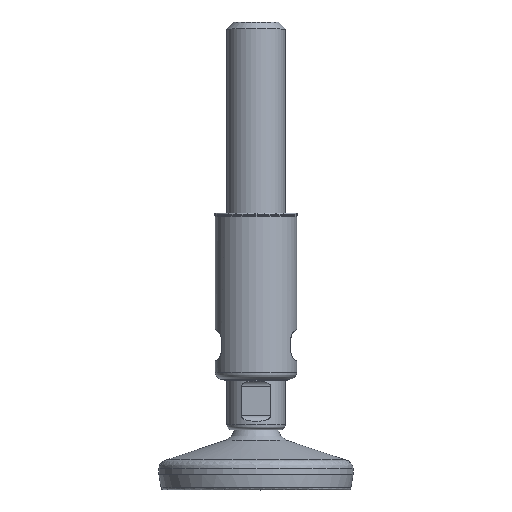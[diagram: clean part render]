
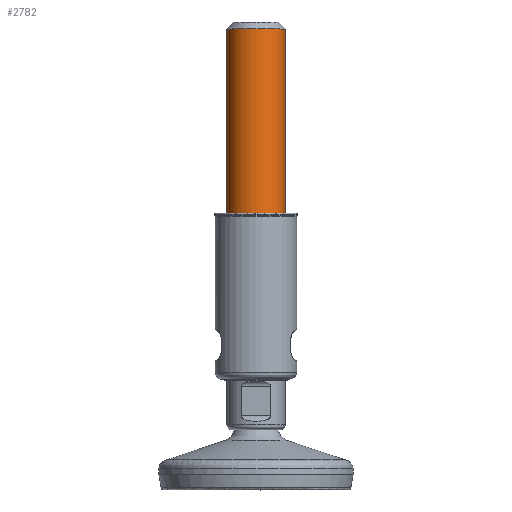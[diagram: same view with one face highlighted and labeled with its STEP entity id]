
A CAD part, top view. The second image highlights one B-rep face of the part: STEP entity #2782.
In plain terms, the highlighted cylindrical face has radius 15 mm (diameter 30 mm), a full revolution.
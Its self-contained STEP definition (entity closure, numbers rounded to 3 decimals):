
#2701=CARTESIAN_POINT('',(1338.633,1101.034,-15.0));
#2702=VERTEX_POINT('',#2701);
#2703=CARTESIAN_POINT('',(1338.633,1101.034,15.0));
#2704=VERTEX_POINT('',#2703);
#2705=CARTESIAN_POINT('',(1338.633,1101.034,0.0));
#2706=DIRECTION('',(0.,1.0,0.0));
#2707=DIRECTION('',(0.0,0.0,1.0));
#2708=AXIS2_PLACEMENT_3D('',#2705,#2706,#2707);
#2709=CIRCLE('',#2708,15.0);
#2710=EDGE_CURVE('',#2702,#2704,#2709,.T.);
#2712=CARTESIAN_POINT('',(1338.633,1101.034,0.0));
#2713=DIRECTION('',(0.,1.0,0.0));
#2714=DIRECTION('',(0.0,0.0,1.0));
#2715=AXIS2_PLACEMENT_3D('',#2712,#2713,#2714);
#2716=CIRCLE('',#2715,15.0);
#2717=EDGE_CURVE('',#2704,#2702,#2716,.T.);
#2748=CARTESIAN_POINT('',(1338.633,1101.034,0.0));
#2749=DIRECTION('',(0.,1.0,0.0));
#2750=DIRECTION('',(0.0,0.0,1.0));
#2751=AXIS2_PLACEMENT_3D('',#2748,#2749,#2750);
#2752=CYLINDRICAL_SURFACE('',#2751,15.0);
#2753=ORIENTED_EDGE('',*,*,#2717,.T.);
#2754=ORIENTED_EDGE('',*,*,#2710,.T.);
#2755=CARTESIAN_POINT('',(1338.633,1211.014,15.0));
#2756=VERTEX_POINT('',#2755);
#2757=CARTESIAN_POINT('',(1338.633,1101.034,15.0));
#2758=DIRECTION('',(0.,1.0,0.0));
#2759=VECTOR('',#2758,109.98);
#2760=LINE('',#2757,#2759);
#2761=EDGE_CURVE('',#2704,#2756,#2760,.T.);
#2762=ORIENTED_EDGE('',*,*,#2761,.T.);
#2763=CARTESIAN_POINT('',(1338.633,1211.014,-15.0));
#2764=VERTEX_POINT('',#2763);
#2765=CARTESIAN_POINT('',(1338.633,1211.014,0.0));
#2766=DIRECTION('',(0.,1.0,0.0));
#2767=DIRECTION('',(0.0,0.0,1.0));
#2768=AXIS2_PLACEMENT_3D('',#2765,#2766,#2767);
#2769=CIRCLE('',#2768,15.0);
#2770=EDGE_CURVE('',#2764,#2756,#2769,.T.);
#2771=ORIENTED_EDGE('',*,*,#2770,.F.);
#2772=CARTESIAN_POINT('',(1338.633,1211.014,0.0));
#2773=DIRECTION('',(0.,1.0,0.0));
#2774=DIRECTION('',(0.0,0.0,1.0));
#2775=AXIS2_PLACEMENT_3D('',#2772,#2773,#2774);
#2776=CIRCLE('',#2775,15.0);
#2777=EDGE_CURVE('',#2756,#2764,#2776,.T.);
#2778=ORIENTED_EDGE('',*,*,#2777,.F.);
#2779=ORIENTED_EDGE('',*,*,#2761,.F.);
#2780=EDGE_LOOP('',(#2753,#2754,#2762,#2771,#2778,#2779));
#2781=FACE_OUTER_BOUND('',#2780,.T.);
#2782=ADVANCED_FACE('',(#2781),#2752,.T.);
